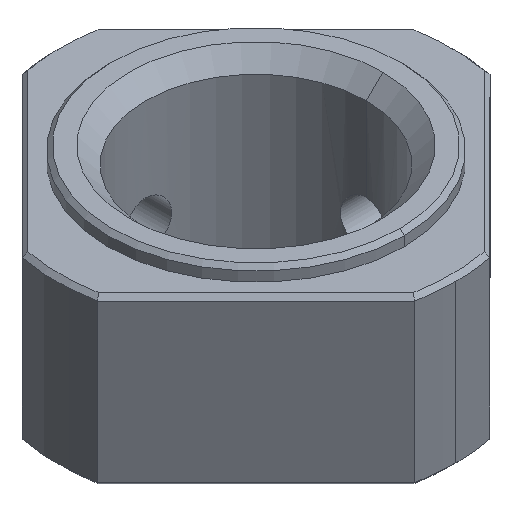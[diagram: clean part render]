
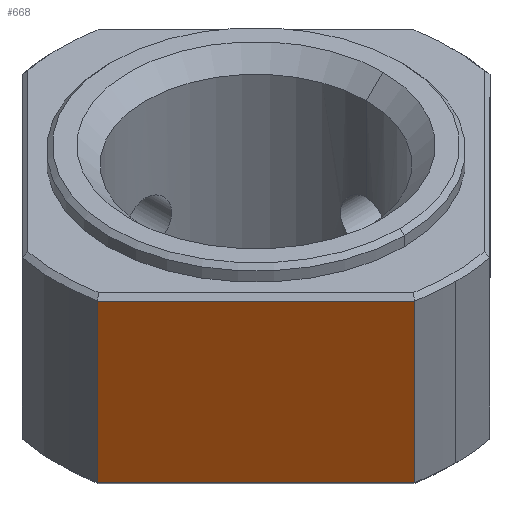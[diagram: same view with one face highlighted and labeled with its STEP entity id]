
A CAD part, isometric view. The second image highlights one B-rep face of the part: STEP entity #668.
In plain terms, the highlighted planar face has unit normal (-0.707, -0.707, 0).
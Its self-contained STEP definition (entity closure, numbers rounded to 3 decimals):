
#126 = ORIENTED_EDGE ( 'NONE', *, *, #640, .T. ) ;
#127 = ORIENTED_EDGE ( 'NONE', *, *, #641, .T. ) ;
#128 = ORIENTED_EDGE ( 'NONE', *, *, #635, .T. ) ;
#129 = ORIENTED_EDGE ( 'NONE', *, *, #689, .T. ) ;
#208 = EDGE_LOOP ( 'NONE', ( #128, #127, #129, #126 ) ) ;
#284 = VERTEX_POINT ( 'NONE', #983 ) ;
#296 = VERTEX_POINT ( 'NONE', #1011 ) ;
#321 = AXIS2_PLACEMENT_3D ( 'NONE', #1418, #1419, #1420 ) ;
#340 = VECTOR ( 'NONE', #783, 1000. ) ;
#343 = FACE_OUTER_BOUND ( 'NONE', #208, .T. ) ;
#382 = VECTOR ( 'NONE', #1404, 1000. ) ;
#386 = VECTOR ( 'NONE', #1390, 1000. ) ;
#387 = VECTOR ( 'NONE', #1362, 1000. ) ;
#635 = EDGE_CURVE ( 'NONE', #958, #954, #1361, .T. ) ;
#640 = EDGE_CURVE ( 'NONE', #296, #958, #1622, .T. ) ;
#641 = EDGE_CURVE ( 'NONE', #954, #284, #1394, .T. ) ;
#668 = ADVANCED_FACE ( 'NONE', ( #343 ), #1417, .T. ) ;
#689 = EDGE_CURVE ( 'NONE', #284, #296, #838, .T. ) ;
#783 = DIRECTION ( 'NONE',  ( 0., 0., 1. ) ) ;
#785 = CARTESIAN_POINT ( 'NONE',  ( -2.73, -14.241, 41.677 ) ) ;
#838 = LINE ( 'NONE', #785, #340 ) ;
#892 = CARTESIAN_POINT ( 'NONE',  ( -14.241, -2.73, 0.3 ) ) ;
#896 = CARTESIAN_POINT ( 'NONE',  ( -14.241, -2.73, 11.7 ) ) ;
#954 = VERTEX_POINT ( 'NONE', #892 ) ;
#958 = VERTEX_POINT ( 'NONE', #896 ) ;
#983 = CARTESIAN_POINT ( 'NONE',  ( -2.73, -14.241, 0.3 ) ) ;
#1011 = CARTESIAN_POINT ( 'NONE',  ( -2.73, -14.241, 11.7 ) ) ;
#1361 = LINE ( 'NONE', #1363, #387 ) ;
#1362 = DIRECTION ( 'NONE',  ( 0., 0., -1. ) ) ;
#1363 = CARTESIAN_POINT ( 'NONE',  ( -14.241, -2.73, 41.677 ) ) ;
#1384 = CARTESIAN_POINT ( 'NONE',  ( -2.73, -14.241, 0.3 ) ) ;
#1390 = DIRECTION ( 'NONE',  ( 0.707, -0.707, 0. ) ) ;
#1394 = LINE ( 'NONE', #1384, #386 ) ;
#1403 = CARTESIAN_POINT ( 'NONE',  ( -14.241, -2.73, 11.7 ) ) ;
#1404 = DIRECTION ( 'NONE',  ( -0.707, 0.707, 0. ) ) ;
#1417 = PLANE ( 'NONE',  #321 ) ;
#1418 = CARTESIAN_POINT ( 'NONE',  ( 0., -16.971, 13. ) ) ;
#1419 = DIRECTION ( 'NONE',  ( -0.707, -0.707, 0. ) ) ;
#1420 = DIRECTION ( 'NONE',  ( 0.707, -0.707, 0. ) ) ;
#1622 = LINE ( 'NONE', #1403, #382 ) ;
